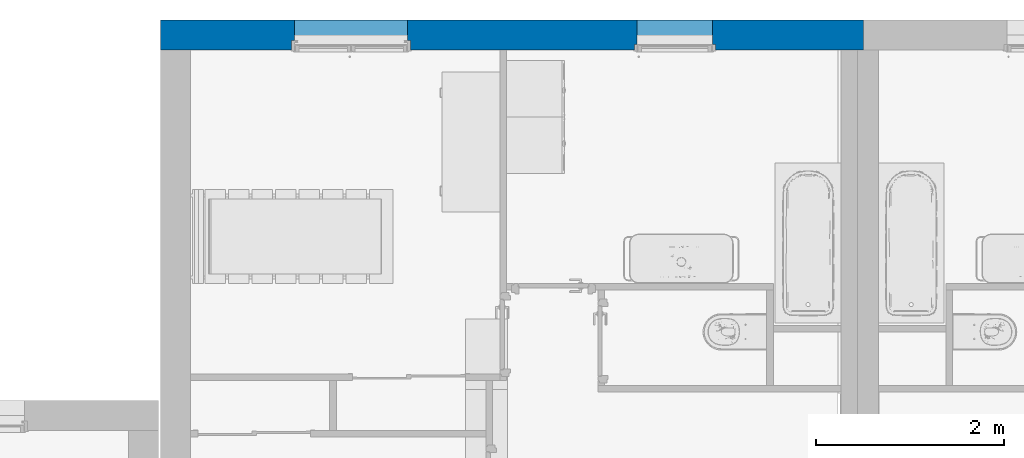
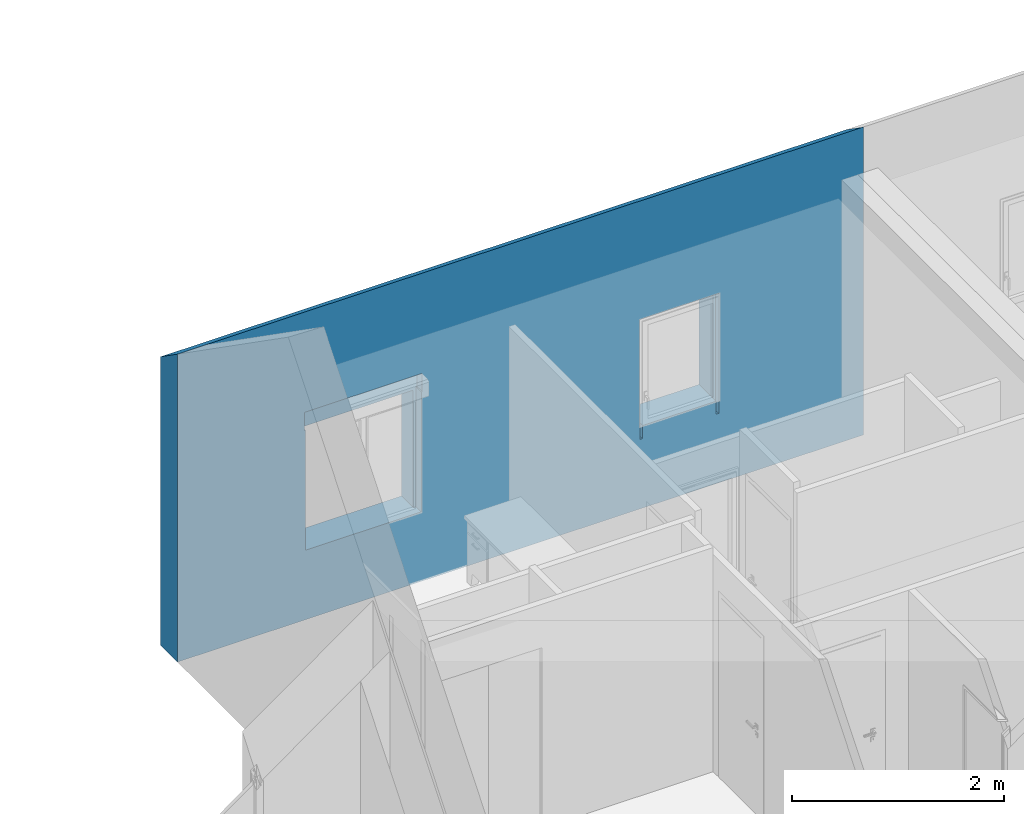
# One storey, part 37 of 61: 1 wall, 2 openings.
"""IFC2X3 building model written with IfcOpenShell, lengths in metres."""

import ifcopenshell
import ifcopenshell.guid

model = None  # the IFC model being written
_history = None  # IfcOwnerHistory: only IFC2X3 demands one
_inside = {}  # id of a spatial element -> (the spatial element, [elements in it])
_under = {}  # id of a project, library or spatial element -> (it, [spatial elements below it])
_declared = {}  # id of a project -> (the project, [libraries it declares])
_typed = {}  # id of a type object -> (the type object, [elements of that type])
_made_of = {}  # id of a material, layer set ... -> (it, [elements and type objects made of it])


def new_model(schema):
    """Start an empty IFC model of exactly this schema.

    Asked for "IFC4X3", IfcOpenShell would pick the latest addendum, in which some entities
    have other attributes; the version numbers below select the first issue.
    IFC2X3 requires an IfcOwnerHistory on every rooted entity: one is made here for all.
    """
    global model, _history
    if schema == "IFC4X3":
        model = ifcopenshell.file(schema_version=(4, 3, 0, 0))
    else:
        model = ifcopenshell.file(schema=schema)
    _inside.clear()
    _under.clear()
    _declared.clear()
    _typed.clear()
    _made_of.clear()
    _history = None
    if model.schema == "IFC2X3":
        org = make("IfcOrganization", Name="unknown")
        user = make(
            "IfcPersonAndOrganization",
            ThePerson=make("IfcPerson", FamilyName="unknown"),
            TheOrganization=org,
        )
        app = make(
            "IfcApplication",
            ApplicationDeveloper=org,
            Version="unknown",
            ApplicationFullName="unknown",
            ApplicationIdentifier="unknown",
        )
        _history = make(
            "IfcOwnerHistory",
            OwningUser=user,
            OwningApplication=app,
            ChangeAction="ADDED",
            CreationDate=0,
        )
    return model


def make(cls, **values):
    """One entity of the class cls with the attributes given. An attribute that is None is left unset."""
    return model.create_entity(
        cls, **{name: value for name, value in values.items() if value is not None}
    )


def entity(cls, *values):
    """Any entity or typed value of the class cls, its attributes in the order of the schema. None: left unset."""
    e = model.create_entity(cls)
    for i, value in enumerate(values):
        if value is not None:
            e[i] = value
    return e


def rooted(cls, **values):
    """An entity with a GlobalId (a new one), such as an element, a storey or a relation."""
    return make(cls, GlobalId=ifcopenshell.guid.new(), OwnerHistory=_history, **values)


def si_unit(unit_type, name, prefix=None):
    """IfcSIUnit, for example si_unit("LENGTHUNIT", "METRE", prefix="MILLI")."""
    return make("IfcSIUnit", UnitType=unit_type, Prefix=prefix, Name=name)


def converted_unit(unit_type, name, factor, base, dimensions=None, offset=None):
    """IfcConversionBasedUnit, such as the inch: factor (a typed value) times the base unit."""
    return make(
        "IfcConversionBasedUnit"
        if offset is None
        else "IfcConversionBasedUnitWithOffset",
        ConversionOffset=offset,
        Dimensions=None
        if dimensions is None
        else entity("IfcDimensionalExponents", *dimensions),
        UnitType=unit_type,
        Name=name,
        ConversionFactor=make(
            "IfcMeasureWithUnit", ValueComponent=factor, UnitComponent=base
        ),
    )


def derived_unit(unit_type, elements):
    """IfcDerivedUnit: a product of units, each with its exponent."""
    return make(
        "IfcDerivedUnit",
        Elements=[
            make("IfcDerivedUnitElement", Unit=unit, Exponent=power)
            for unit, power in elements
        ],
        UnitType=unit_type,
    )


def assignment(units):
    """IfcUnitAssignment: the units of a project."""
    return None if units is None else make("IfcUnitAssignment", Units=units)


def point(xyz):
    """IfcCartesianPoint."""
    return None if xyz is None else make("IfcCartesianPoint", Coordinates=xyz)


def direction(xyz):
    """IfcDirection."""
    return None if xyz is None else make("IfcDirection", DirectionRatios=xyz)


def frame(location, z_axis=None, x_axis=None):
    """IfcAxis2Placement3D, a coordinate frame: its origin and axes. An axis left out is left unset."""
    return make(
        "IfcAxis2Placement3D",
        Location=point(location),
        Axis=direction(z_axis),
        RefDirection=direction(x_axis),
    )


def frame_2d(location, x_axis=None):
    """IfcAxis2Placement2D, a coordinate frame in the plane: its origin and x axis."""
    return make(
        "IfcAxis2Placement2D", Location=point(location), RefDirection=direction(x_axis)
    )


def origin():
    """The frame at (0, 0, 0) with its axes left unset."""
    return frame((0.0, 0.0, 0.0))


def place(relative_to, where):
    """IfcLocalPlacement: puts the frame where relative to a parent placement (None: the world)."""
    return make(
        "IfcLocalPlacement", PlacementRelTo=relative_to, RelativePlacement=where
    )


def context(
    kind, dimensions, precision=None, world=None, true_north=None, identifier=None
):
    """IfcGeometricRepresentationContext, for example the 3D "Model" context."""
    return make(
        "IfcGeometricRepresentationContext",
        ContextIdentifier=identifier,
        ContextType=kind,
        CoordinateSpaceDimension=dimensions,
        Precision=precision,
        WorldCoordinateSystem=world,
        TrueNorth=true_north,
    )


def subcontext(parent, identifier, kind, view, scale=None):
    """IfcGeometricRepresentationSubContext, for example "Body" below "Model"."""
    return make(
        "IfcGeometricRepresentationSubContext",
        ContextIdentifier=identifier,
        ContextType=kind,
        ParentContext=parent,
        TargetScale=scale,
        TargetView=view,
    )


def project(units=None, contexts=None):
    """IfcProject with its units and contexts."""
    return rooted(
        "IfcProject",
        Name="project",
        RepresentationContexts=contexts,
        UnitsInContext=assignment(units),
    )


def spatial(cls, under=None, at=None, **own):
    """A site, building, storey or space (cls), placed at a placement, below another one or the project."""
    s = rooted(cls, ObjectPlacement=at, **own)
    if under is not None:
        _under.setdefault(under.id(), (under, []))[1].append(s)
    return s


def polyline(points):
    """IfcPolyline through the points."""
    return make("IfcPolyline", Points=[point(p) for p in points])


def profile(cls, at=None, kind="AREA", **sizes):
    """A parametric profile (cls). Its sizes go by their IFC names, for example OverallWidth=200.0."""
    return make(cls, ProfileType=kind, Position=at, **sizes)


def rectangle(**sizes):
    """IfcRectangleProfileDef."""
    return profile("IfcRectangleProfileDef", **sizes)


def extrude(swept, where, along, depth):
    """IfcExtrudedAreaSolid: the profile swept, set in the frame where, extruded along a direction by depth."""
    return make(
        "IfcExtrudedAreaSolid",
        SweptArea=swept,
        Position=where,
        ExtrudedDirection=direction(along),
        Depth=depth,
    )


def clip(a, b, op="DIFFERENCE"):
    """IfcBooleanClippingResult: the solid a cut by the half space b."""
    return make(
        "IfcBooleanClippingResult", Operator=op, FirstOperand=a, SecondOperand=b
    )


def bounded_halfspace(plane, agree, where, boundary):
    """IfcPolygonalBoundedHalfSpace: a half space limited to a polygon's prism."""
    return make(
        "IfcPolygonalBoundedHalfSpace",
        BaseSurface=make("IfcPlane", Position=plane),
        AgreementFlag=agree,
        Position=where,
        PolygonalBoundary=boundary,
    )


def faces_of(points, faces, orient=None, outer=None):
    """IfcFace entities. A face is a list of loops; a loop is a list of indices into points, from 0.

    orient and outer hold one flag for each loop. By default every Orientation is true, the
    first loop of a face is its IfcFaceOuterBound and the others are IfcFaceBound.
    """
    made = []
    for i, loops in enumerate(faces):
        bounds = []
        for j, loop in enumerate(loops):
            is_outer = j == 0 if outer is None else outer[i][j]
            bounds.append(
                make(
                    "IfcFaceOuterBound" if is_outer else "IfcFaceBound",
                    Bound=make("IfcPolyLoop", Polygon=[points[k] for k in loop]),
                    Orientation=True if orient is None else orient[i][j],
                )
            )
        made.append(make("IfcFace", Bounds=bounds))
    return made


def faceted_brep(points, faces, orient=None, outer=None, voids=None):
    """IfcFacetedBrep: a solid bounded by flat faces; with voids (closed shells), ...WithVoids."""
    shared = [point(p) for p in points]
    hull = make("IfcClosedShell", CfsFaces=faces_of(shared, faces, orient, outer))
    if voids is None:
        return make("IfcFacetedBrep", Outer=hull)
    return make(
        "IfcFacetedBrepWithVoids",
        Outer=hull,
        Voids=[
            make(cls, CfsFaces=faces_of(shared, fs, o, b)) for cls, fs, o, b in voids
        ],
    )


def shape(context_of_items, identifier, shape_type, items):
    """IfcShapeRepresentation: the items that make up one representation, for example the "Body"."""
    return make(
        "IfcShapeRepresentation",
        ContextOfItems=context_of_items,
        RepresentationIdentifier=identifier,
        RepresentationType=shape_type,
        Items=items,
    )


def material(Name=None, Category=None):
    """IfcMaterial."""
    return make("IfcMaterial", Name=Name, Category=Category)


def layer(
    of_material, thickness, ventilated=None, Name=None, Category=None, Priority=None
):
    """IfcMaterialLayer: one layer of a wall or slab, of a material (None: an air gap)."""
    return make(
        "IfcMaterialLayer",
        Material=of_material,
        LayerThickness=thickness,
        IsVentilated=ventilated,
        Name=Name,
        Category=Category,
        Priority=Priority,
    )


def layer_set(layers, Name=None):
    """IfcMaterialLayerSet."""
    return make("IfcMaterialLayerSet", MaterialLayers=layers, LayerSetName=Name)


def layer_usage(for_layer_set, set_direction, sense, offset, extent=None):
    """IfcMaterialLayerSetUsage: how a layer set lies in its element."""
    return make(
        "IfcMaterialLayerSetUsage",
        ForLayerSet=for_layer_set,
        LayerSetDirection=set_direction,
        DirectionSense=sense,
        OffsetFromReferenceLine=offset,
        ReferenceExtent=extent,
    )


def made_of(thing, what):
    """Note that an element or type object is made of a material, layer set ...; save() writes the relation."""
    if what is not None:
        _made_of.setdefault(what.id(), (what, []))[1].append(thing)
    return thing


def type_object(cls, material=None, **own):
    """A type object (cls), such as IfcWallType, which elements share."""
    return made_of(rooted(cls, **own), material)


def element(
    cls,
    number,
    at=None,
    inside=None,
    cuts=None,
    type_object=None,
    material=None,
    context=None,
    identifier="Body",
    shape_type=None,
    held_by="IfcProductDefinitionShape",
    body=None,
    shapes=None,
    **own,
):
    """One element of the class cls, such as IfcWall. Its Tag is "e" and its number.

    at: its placement. inside: the storey or other place that contains it. cuts: it is an
    opening in that element (IfcRelVoidsElement). A single representation is given by context,
    identifier, shape_type and body (its items); several are given by shapes. held_by: the class
    of the entity that holds the representations. save() writes the other relations.
    """
    e = rooted(cls, Tag="e%d" % number, ObjectPlacement=at, **own)
    if body is not None:
        shapes = [shape(context, identifier, shape_type, body)]
    if shapes is not None:
        e.Representation = make(held_by, Representations=shapes)
    if inside is not None:
        _inside.setdefault(inside.id(), (inside, []))[1].append(e)
    if cuts is not None:
        rooted(
            "IfcRelVoidsElement", RelatingBuildingElement=cuts, RelatedOpeningElement=e
        )
    if type_object is not None:
        _typed.setdefault(type_object.id(), (type_object, []))[1].append(e)
    return made_of(e, material)


def aggregate(whole, parts):
    """IfcRelAggregates: a whole, such as a stair, and the parts it consists of."""
    return rooted("IfcRelAggregates", RelatingObject=whole, RelatedObjects=parts)


def save(model, path):
    """Write the relations noted so far, then the file.

    IfcRelAggregates (storeys below a building ...), IfcRelContainedInSpatialStructure (elements
    in a storey), IfcRelDefinesByType, IfcRelAssociatesMaterial and IfcRelDeclares: one each for
    every whole, place, type object, material and project.
    """
    for whole, parts in _under.values():
        aggregate(whole, parts)
    for where, things in _inside.values():
        rooted(
            "IfcRelContainedInSpatialStructure",
            RelatedElements=things,
            RelatingStructure=where,
        )
    for kind, things in _typed.values():
        rooted("IfcRelDefinesByType", RelatedObjects=things, RelatingType=kind)
    for what, things in _made_of.values():
        rooted("IfcRelAssociatesMaterial", RelatedObjects=things, RelatingMaterial=what)
    for by, libraries in _declared.values():
        rooted("IfcRelDeclares", RelatingContext=by, RelatedDefinitions=libraries)
    model.write(path)


model = new_model("IFC2X3")

# Units and contexts
model_context = context("Model", 3, precision=1e-05, world=origin(), true_north=direction((6.12303176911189e-17, 1.0)))
body_context = subcontext(model_context, "Body", "Model", "MODEL_VIEW")
ifc_project = project(units=[si_unit("LENGTHUNIT", "METRE"), si_unit("AREAUNIT", "SQUARE_METRE"), si_unit("VOLUMEUNIT", "CUBIC_METRE"), converted_unit("PLANEANGLEUNIT", "DEGREE", entity("IfcRatioMeasure", 0.0174532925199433), si_unit("PLANEANGLEUNIT", "RADIAN"), dimensions=[0, 0, 0, 0, 0, 0, 0]), si_unit("MASSUNIT", "GRAM", prefix="KILO"), derived_unit("MASSDENSITYUNIT", [(si_unit("MASSUNIT", "GRAM", prefix="KILO"), 1), (si_unit("LENGTHUNIT", "METRE"), -3)]), si_unit("TIMEUNIT", "SECOND"), si_unit("FREQUENCYUNIT", "HERTZ"), si_unit("THERMODYNAMICTEMPERATUREUNIT", "DEGREE_CELSIUS"), derived_unit("THERMALTRANSMITTANCEUNIT", [(si_unit("MASSUNIT", "GRAM", prefix="KILO"), 1), (si_unit("THERMODYNAMICTEMPERATUREUNIT", "KELVIN"), -1), (si_unit("TIMEUNIT", "SECOND"), -3)]), derived_unit("VOLUMETRICFLOWRATEUNIT", [(si_unit("LENGTHUNIT", "METRE"), 3), (si_unit("TIMEUNIT", "SECOND"), -1)]), si_unit("ELECTRICCURRENTUNIT", "AMPERE"), si_unit("ELECTRICVOLTAGEUNIT", "VOLT"), si_unit("POWERUNIT", "WATT"), si_unit("FORCEUNIT", "NEWTON", prefix="KILO"), si_unit("ILLUMINANCEUNIT", "LUX"), si_unit("LUMINOUSFLUXUNIT", "LUMEN"), si_unit("LUMINOUSINTENSITYUNIT", "CANDELA"), derived_unit("USERDEFINED", [(si_unit("MASSUNIT", "GRAM", prefix="KILO"), -1), (si_unit("LENGTHUNIT", "METRE"), -2), (si_unit("TIMEUNIT", "SECOND"), 3), (si_unit("LUMINOUSFLUXUNIT", "LUMEN"), 1)]), derived_unit("LINEARVELOCITYUNIT", [(si_unit("LENGTHUNIT", "METRE"), 1), (si_unit("TIMEUNIT", "SECOND"), -1)]), si_unit("PRESSUREUNIT", "PASCAL"), derived_unit("USERDEFINED", [(si_unit("LENGTHUNIT", "METRE"), -2), (si_unit("MASSUNIT", "GRAM", prefix="KILO"), 1), (si_unit("TIMEUNIT", "SECOND"), -2)])], contexts=[model_context])

# Site, building, storey
site_placement = place(None, origin())
site = spatial("IfcSite", under=ifc_project, at=site_placement, Name="Surface", CompositionType="ELEMENT")
building_placement = place(site_placement, origin())
building = spatial("IfcBuilding", under=site, at=building_placement, CompositionType="ELEMENT")
storey_placement = place(building_placement, frame((0.0, 0.0, 2.82)))
storey = spatial("IfcBuildingStorey", under=building, at=storey_placement, Name="ETAGE", CompositionType="ELEMENT", Elevation=2.82)

# Wall, openings
ifc_material_1 = material(Name="Enduit blanc cassé2")
ifc_layer_1 = layer(ifc_material_1, 0.02)
ifc_material_2 = material(Name="Parpaing")
ifc_layer_2 = layer(ifc_material_2, 0.2)
ifc_material_3 = material(Name="Isolant")
ifc_layer_3 = layer(ifc_material_3, 0.1)
ifc_layer_set = layer_set([ifc_layer_1, ifc_layer_2, ifc_layer_3], Name="Mur de base:Ext. Parpaing 20 + Isolant 10 enduit blanc cassé")
ifc_layer_usage = layer_usage(ifc_layer_set, "AXIS2", "POSITIVE", -0.16)
wall_type = type_object("IfcWallType", Name="Mur de base:Ext. Parpaing 20 + Isolant 10 enduit blanc cassé", PredefinedType="STANDARD", material=ifc_layer_set)
wall_placement = place(storey_placement, frame((83.7689023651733, 92.3075239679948, 0.0), z_axis=(0.0, 0.0, 1.0), x_axis=(-1.0, 0.0, 0.0)))
wall = element("IfcWallStandardCase", 1, at=wall_placement, inside=storey, type_object=wall_type, material=ifc_layer_usage, Name="Mur de base:Ext. Parpaing 20 + Isolant 10 enduit blanc cassé", ObjectType="Mur de base:Ext. Parpaing 20 + Isolant 10 enduit blanc cassé", context=body_context, shape_type="Clipping", body=[
    clip(extrude(rectangle(XDim=7.46614635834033, YDim=0.319999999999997, at=frame_2d((3.73307317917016, -2.55351295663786e-15), x_axis=(-1.0, 0.0))), origin(), (0.0, 0.0, 1.0), 3.5440664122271), bounded_halfspace(frame((0.0, -0.159999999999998, 3.32), z_axis=(0.0, -0.573576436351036, 0.819152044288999), x_axis=(1.0, 0.0, 0.0)), False, frame((0.0, -0.159999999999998, 3.32)), polyline([(0.0, 0.0), (7.46614635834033, 0.0), (7.46614635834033, 0.319999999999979), (7.14614635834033, 0.319999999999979), (0.237500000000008, 0.319999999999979), (0.0625000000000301, 0.319999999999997), (0.0175000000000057, 0.319999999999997), (0.0, 0.319999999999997), (0.0, 0.0)]))),
])
opening_1_placement = place(wall_placement, frame((2.43394170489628, 0.259999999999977, 0.799999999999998), z_axis=(0.0, 0.0, 1.0), x_axis=(-1.0, 0.0, 0.0)))
element("IfcOpeningElement", 2, at=opening_1_placement, cuts=wall, Name="Mur de base:Ext. Parpaing 20 + Isolant 10 enduit blanc cassé", ObjectType="Opening", context=body_context, shape_type="Brep", body=[
    faceted_brep([(0.830000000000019, 0.0, 1.35), (0.830000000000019, 0.0999999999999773, 1.35), (0.0300000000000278, 0.0999999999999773, 1.35), (0.0300000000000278, 0.0, 1.35), (0.830000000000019, 0.720000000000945, 0.150000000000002), (0.830000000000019, 0.159999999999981, 0.150000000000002), (0.830000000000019, 0.0999999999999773, 0.150000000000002), (0.830000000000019, 0.0, 0.150000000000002), (0.0300000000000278, 0.0, 0.150000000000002), (0.0300000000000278, 0.0999999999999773, 0.150000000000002), (0.0300000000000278, 0.159999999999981, 0.150000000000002), (0.0300000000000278, 0.720000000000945, 0.150000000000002), (0.830000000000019, 0.720000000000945, 1.35), (0.0300000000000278, 0.720000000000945, 1.35), (0.830000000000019, 0.159999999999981, 1.35), (0.0300000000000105, 0.159999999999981, 0.0), (0.0300000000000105, 0.0999999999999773, 0.0), (0.0, 0.0999999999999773, 0.0), (0.0, 0.159999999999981, 0.0), (0.830000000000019, 0.0999999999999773, 0.0), (0.860000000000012, 0.0999999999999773, 0.0), (0.860000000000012, 0.0999999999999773, 1.38), (0.0, 0.0999999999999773, 1.38), (0.0, 0.159999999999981, 1.38), (0.860000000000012, 0.159999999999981, 1.38), (0.860000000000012, 0.159999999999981, 0.0), (0.830000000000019, 0.159999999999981, 0.0), (0.0300000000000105, 0.159999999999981, 1.35)], [[[0, 1, 2, 3]], [[4, 5, 6, 7, 8, 9, 10, 11]], [[12, 4, 11, 13]], [[3, 2, 9, 8]], [[3, 8, 7, 0]], [[12, 14, 5, 4]], [[15, 16, 17, 18]], [[15, 10, 9, 16]], [[16, 9, 2, 1, 6, 19, 20, 21, 22, 17]], [[17, 22, 23, 18]], [[18, 23, 24, 25, 26, 5, 14, 27, 10, 15]], [[21, 24, 23, 22]], [[19, 26, 25, 20]], [[19, 6, 5, 26]], [[20, 25, 24, 21]], [[7, 6, 1, 0]], [[11, 10, 27, 13]], [[13, 27, 14, 12]]]),
])
opening_2_placement = place(wall_placement, frame((6.0830731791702, 0.260000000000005, 0.799999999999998), z_axis=(0.0, 0.0, 1.0), x_axis=(-1.0, 0.0, 0.0)))
element("IfcOpeningElement", 3, at=opening_2_placement, cuts=wall, Name="Mur de base:Ext. Parpaing 20 + Isolant 10 enduit blanc cassé", ObjectType="Opening", context=body_context, shape_type="Brep", body=[
    faceted_brep([(1.24000000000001, 0.720000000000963, 1.35), (0.0400000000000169, 0.720000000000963, 1.35), (0.0400000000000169, 0.199999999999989, 1.35), (1.24000000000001, 0.200000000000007, 1.35), (0.0400000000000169, 0.720000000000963, 0.0), (1.24000000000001, 0.720000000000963, 0.0), (1.24000000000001, 0.200000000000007, 0.0), (1.27000000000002, 0.200000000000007, 0.0), (1.27000000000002, 0.0999999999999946, 0.0), (1.24000000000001, 0.0999999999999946, 0.0), (1.24000000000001, 0.0, 0.0), (0.0400000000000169, 0.0, 0.0), (0.0400000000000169, 0.0999999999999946, 0.0), (0.0100000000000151, 0.0999999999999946, 0.0), (0.0100000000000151, 0.199999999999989, 0.0), (0.0400000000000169, 0.199999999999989, 0.0), (1.24000000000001, 0.0, 1.35), (0.0400000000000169, 0.0, 1.35), (1.27000000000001, 0.0999999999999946, 1.38), (1.28000000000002, 0.100000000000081, 1.38000000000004), (1.28000000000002, 0.100000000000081, 1.59000000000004), (0.0, 0.100000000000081, 1.59000000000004), (0.0, 0.0999999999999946, 1.38000000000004), (0.0100000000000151, 0.0999999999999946, 1.38), (0.0400000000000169, 0.0999999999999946, 1.35), (1.24000000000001, 0.0999999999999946, 1.35), (1.27000000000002, 0.199999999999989, 1.38000000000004), (0.0100000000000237, 0.199999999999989, 1.38000000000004), (0.0, 0.200000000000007, 1.38000000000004), (0.0, 0.199999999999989, 1.59000000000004), (1.28000000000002, 0.200000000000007, 1.59000000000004), (1.28000000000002, 0.200000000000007, 1.38000000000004)], [[[0, 1, 2, 3]], [[4, 5, 6, 7, 8, 9, 10, 11, 12, 13, 14, 15]], [[1, 0, 5, 4]], [[5, 0, 3, 6]], [[16, 17, 11, 10]], [[1, 4, 15, 2]], [[9, 8, 18, 19, 20, 21, 22, 23, 13, 12, 24, 25]], [[8, 7, 26, 18]], [[7, 6, 3, 2, 15, 14, 27, 28, 29, 30, 31, 26]], [[13, 23, 27, 14]], [[31, 30, 20, 19]], [[28, 22, 21, 29]], [[31, 19, 18, 26]], [[20, 30, 29, 21]], [[22, 28, 27, 23]], [[11, 17, 24, 12]], [[16, 10, 9, 25]], [[17, 16, 25, 24]]]),
])

save(model, "model.ifc")
